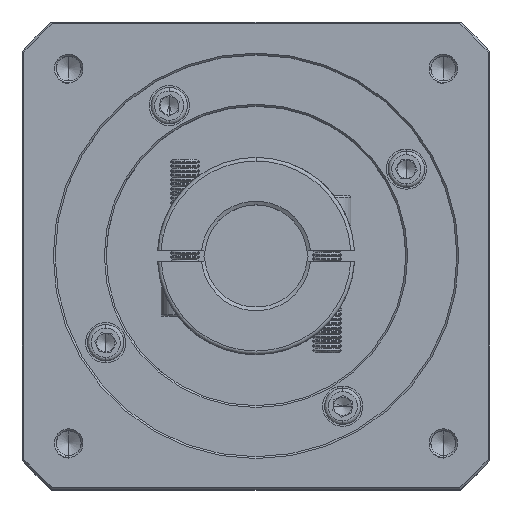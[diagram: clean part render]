
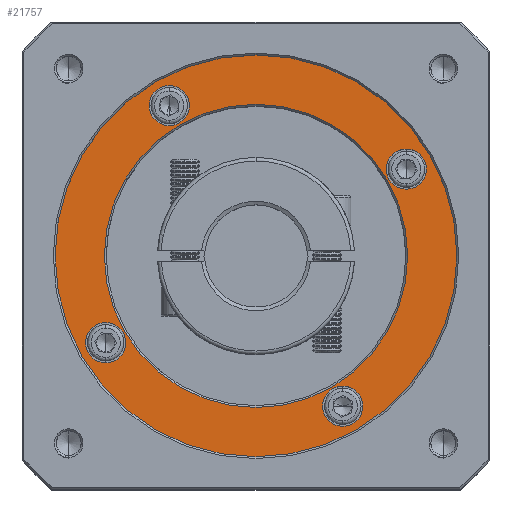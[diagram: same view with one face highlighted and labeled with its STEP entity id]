
A CAD part, top view. The second image highlights one B-rep face of the part: STEP entity #21757.
In plain terms, the highlighted planar face has unit normal (0, 0, 1).
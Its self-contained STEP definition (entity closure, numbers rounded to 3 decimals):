
#282 = VERTEX_POINT ( 'NONE', #111818 ) ;
#908 = DIRECTION ( 'NONE',  ( 0., 0., -1. ) ) ;
#1043 = AXIS2_PLACEMENT_3D ( 'NONE', #74714, #42538, #84969 ) ;
#1100 = VERTEX_POINT ( 'NONE', #102758 ) ;
#2003 = DIRECTION ( 'NONE',  ( 0., 0., 1. ) ) ;
#2314 = EDGE_LOOP ( 'NONE', ( #53384, #108763 ) ) ;
#3133 = CARTESIAN_POINT ( 'NONE',  ( 11.716, 57.868, 34.78 ) ) ;
#3472 = DIRECTION ( 'NONE',  ( 0., 0., 1. ) ) ;
#5245 = DIRECTION ( 'NONE',  ( 0., 1., 0. ) ) ;
#7034 = CARTESIAN_POINT ( 'NONE',  ( 29.102, 122.754, 34.78 ) ) ;
#7500 = FACE_BOUND ( 'NONE', #18315, .T. ) ;
#7676 = CARTESIAN_POINT ( 'NONE',  ( 93.989, 99.868, 34.78 ) ) ;
#7784 = ORIENTED_EDGE ( 'NONE', *, *, #77686, .T. ) ;
#7814 = AXIS2_PLACEMENT_3D ( 'NONE', #103446, #73968, #115448 ) ;
#8805 = EDGE_LOOP ( 'NONE', ( #76430, #115575 ) ) ;
#10395 = EDGE_CURVE ( 'NONE', #124551, #97203, #35784, .T. ) ;
#11506 = CARTESIAN_POINT ( 'NONE',  ( 11.716, 57.868, 34.78 ) ) ;
#12601 = EDGE_LOOP ( 'NONE', ( #51501, #71983 ) ) ;
#13302 = ORIENTED_EDGE ( 'NONE', *, *, #132427, .T. ) ;
#15938 = DIRECTION ( 'NONE',  ( 0., 0., -1. ) ) ;
#16460 = CARTESIAN_POINT ( 'NONE',  ( 93.989, 105.368, 34.78 ) ) ;
#17561 = ORIENTED_EDGE ( 'NONE', *, *, #52430, .T. ) ;
#18128 = EDGE_CURVE ( 'NONE', #124477, #40626, #96997, .T. ) ;
#18315 = EDGE_LOOP ( 'NONE', ( #7784, #57504 ) ) ;
#18650 = AXIS2_PLACEMENT_3D ( 'NONE', #91545, #98737, #101855 ) ;
#21757 = ADVANCED_FACE ( 'NONE', ( #71542, #95437, #58685, #7500, #84357, #45869 ), #114966, .T. ) ;
#21946 = CARTESIAN_POINT ( 'NONE',  ( 93.989, 110.868, 34.78 ) ) ;
#22742 = CARTESIAN_POINT ( 'NONE',  ( 93.989, 105.368, 34.78 ) ) ;
#26865 = CIRCLE ( 'NONE', #7814, 55. ) ;
#31495 = ORIENTED_EDGE ( 'NONE', *, *, #18128, .T. ) ;
#35724 = VERTEX_POINT ( 'NONE', #61002 ) ;
#35784 = CIRCLE ( 'NONE', #45027, 5.5 ) ;
#36643 = CIRCLE ( 'NONE', #43638, 5.5 ) ;
#36863 = CARTESIAN_POINT ( 'NONE',  ( 76.602, 34.981, 34.78 ) ) ;
#37669 = DIRECTION ( 'NONE',  ( 0., 1., 0. ) ) ;
#40171 = AXIS2_PLACEMENT_3D ( 'NONE', #85045, #2003, #74372 ) ;
#40626 = VERTEX_POINT ( 'NONE', #107030 ) ;
#40717 = VERTEX_POINT ( 'NONE', #36863 ) ;
#42538 = DIRECTION ( 'NONE',  ( 0., 0., -1. ) ) ;
#43638 = AXIS2_PLACEMENT_3D ( 'NONE', #7034, #15938, #5245 ) ;
#45027 = AXIS2_PLACEMENT_3D ( 'NONE', #11506, #908, #81332 ) ;
#45466 = DIRECTION ( 'NONE',  ( 0., 1., 0. ) ) ;
#45869 = FACE_BOUND ( 'NONE', #49650, .T. ) ;
#47810 = CIRCLE ( 'NONE', #55591, 5.5 ) ;
#48887 = CARTESIAN_POINT ( 'NONE',  ( 11.716, 63.368, 34.78 ) ) ;
#49650 = EDGE_LOOP ( 'NONE', ( #86253, #13302 ) ) ;
#51501 = ORIENTED_EDGE ( 'NONE', *, *, #73433, .T. ) ;
#51784 = EDGE_LOOP ( 'NONE', ( #31495, #17561 ) ) ;
#52430 = EDGE_CURVE ( 'NONE', #40626, #124477, #36643, .T. ) ;
#53071 = AXIS2_PLACEMENT_3D ( 'NONE', #22742, #124556, #105446 ) ;
#53384 = ORIENTED_EDGE ( 'NONE', *, *, #99927, .T. ) ;
#55153 = CARTESIAN_POINT ( 'NONE',  ( 76.602, 40.481, 34.78 ) ) ;
#55591 = AXIS2_PLACEMENT_3D ( 'NONE', #3133, #73766, #105036 ) ;
#57504 = ORIENTED_EDGE ( 'NONE', *, *, #130728, .T. ) ;
#58685 = FACE_BOUND ( 'NONE', #51784, .T. ) ;
#59309 = VERTEX_POINT ( 'NONE', #125618 ) ;
#61002 = CARTESIAN_POINT ( 'NONE',  ( 52.852, 26.618, 34.78 ) ) ;
#61420 = EDGE_CURVE ( 'NONE', #1100, #40717, #87091, .T. ) ;
#64208 = CARTESIAN_POINT ( 'NONE',  ( 11.716, 52.368, 34.78 ) ) ;
#65237 = VERTEX_POINT ( 'NONE', #125186 ) ;
#68110 = AXIS2_PLACEMENT_3D ( 'NONE', #16460, #98286, #88451 ) ;
#68989 = CIRCLE ( 'NONE', #80910, 55. ) ;
#70267 = CIRCLE ( 'NONE', #81196, 5.5 ) ;
#71542 = FACE_OUTER_BOUND ( 'NONE', #2314, .T. ) ;
#71983 = ORIENTED_EDGE ( 'NONE', *, *, #96474, .T. ) ;
#73433 = EDGE_CURVE ( 'NONE', #59309, #65237, #110214, .T. ) ;
#73766 = DIRECTION ( 'NONE',  ( 0., 0., -1. ) ) ;
#73968 = DIRECTION ( 'NONE',  ( 0., 0., 1. ) ) ;
#74102 = AXIS2_PLACEMENT_3D ( 'NONE', #90005, #88272, #108797 ) ;
#74139 = CARTESIAN_POINT ( 'NONE',  ( 52.852, 81.618, 34.78 ) ) ;
#74372 = DIRECTION ( 'NONE',  ( 0., 1., 0. ) ) ;
#74714 = CARTESIAN_POINT ( 'NONE',  ( 52.852, 81.618, 34.78 ) ) ;
#76430 = ORIENTED_EDGE ( 'NONE', *, *, #77634, .T. ) ;
#77634 = EDGE_CURVE ( 'NONE', #97203, #124551, #47810, .T. ) ;
#77686 = EDGE_CURVE ( 'NONE', #124959, #91841, #106925, .T. ) ;
#79625 = DIRECTION ( 'NONE',  ( 0., 0., -1. ) ) ;
#80910 = AXIS2_PLACEMENT_3D ( 'NONE', #74139, #3472, #45466 ) ;
#81196 = AXIS2_PLACEMENT_3D ( 'NONE', #55153, #126577, #127442 ) ;
#81332 = DIRECTION ( 'NONE',  ( 0., 1., 0. ) ) ;
#84357 = FACE_BOUND ( 'NONE', #8805, .T. ) ;
#84969 = DIRECTION ( 'NONE',  ( 0., 1., 0. ) ) ;
#85045 = CARTESIAN_POINT ( 'NONE',  ( 52.852, 81.618, 34.78 ) ) ;
#86253 = ORIENTED_EDGE ( 'NONE', *, *, #61420, .T. ) ;
#87091 = CIRCLE ( 'NONE', #116393, 5.5 ) ;
#88272 = DIRECTION ( 'NONE',  ( 0., 0., -1. ) ) ;
#88451 = DIRECTION ( 'NONE',  ( 0., 1., 0. ) ) ;
#90005 = CARTESIAN_POINT ( 'NONE',  ( 52.852, 81.618, 34.78 ) ) ;
#90297 = CARTESIAN_POINT ( 'NONE',  ( 76.602, 40.481, 34.78 ) ) ;
#91545 = CARTESIAN_POINT ( 'NONE',  ( 29.102, 122.754, 34.78 ) ) ;
#91841 = VERTEX_POINT ( 'NONE', #7676 ) ;
#94948 = CARTESIAN_POINT ( 'NONE',  ( 29.102, 128.254, 34.78 ) ) ;
#95437 = FACE_BOUND ( 'NONE', #12601, .T. ) ;
#96474 = EDGE_CURVE ( 'NONE', #65237, #59309, #127269, .T. ) ;
#96997 = CIRCLE ( 'NONE', #18650, 5.5 ) ;
#97203 = VERTEX_POINT ( 'NONE', #48887 ) ;
#98286 = DIRECTION ( 'NONE',  ( 0., 0., -1. ) ) ;
#98737 = DIRECTION ( 'NONE',  ( 0., 0., -1. ) ) ;
#99927 = EDGE_CURVE ( 'NONE', #282, #35724, #26865, .T. ) ;
#101855 = DIRECTION ( 'NONE',  ( 0., 1., 0. ) ) ;
#102039 = EDGE_CURVE ( 'NONE', #35724, #282, #68989, .T. ) ;
#102758 = CARTESIAN_POINT ( 'NONE',  ( 76.602, 45.981, 34.78 ) ) ;
#103446 = CARTESIAN_POINT ( 'NONE',  ( 52.852, 81.618, 34.78 ) ) ;
#105036 = DIRECTION ( 'NONE',  ( 0., 1., 0. ) ) ;
#105446 = DIRECTION ( 'NONE',  ( 0., 1., 0. ) ) ;
#106925 = CIRCLE ( 'NONE', #53071, 5.5 ) ;
#107030 = CARTESIAN_POINT ( 'NONE',  ( 29.102, 117.254, 34.78 ) ) ;
#108763 = ORIENTED_EDGE ( 'NONE', *, *, #102039, .T. ) ;
#108797 = DIRECTION ( 'NONE',  ( 0., 1., 0. ) ) ;
#110214 = CIRCLE ( 'NONE', #1043, 41.5 ) ;
#111818 = CARTESIAN_POINT ( 'NONE',  ( 52.852, 136.618, 34.78 ) ) ;
#114966 = PLANE ( 'NONE',  #40171 ) ;
#115448 = DIRECTION ( 'NONE',  ( 0., 1., 0. ) ) ;
#115575 = ORIENTED_EDGE ( 'NONE', *, *, #10395, .T. ) ;
#116393 = AXIS2_PLACEMENT_3D ( 'NONE', #90297, #79625, #37669 ) ;
#117370 = CIRCLE ( 'NONE', #68110, 5.5 ) ;
#124477 = VERTEX_POINT ( 'NONE', #94948 ) ;
#124551 = VERTEX_POINT ( 'NONE', #64208 ) ;
#124556 = DIRECTION ( 'NONE',  ( 0., 0., -1. ) ) ;
#124959 = VERTEX_POINT ( 'NONE', #21946 ) ;
#125186 = CARTESIAN_POINT ( 'NONE',  ( 52.852, 40.118, 34.78 ) ) ;
#125618 = CARTESIAN_POINT ( 'NONE',  ( 52.852, 123.118, 34.78 ) ) ;
#126577 = DIRECTION ( 'NONE',  ( 0., 0., -1. ) ) ;
#127269 = CIRCLE ( 'NONE', #74102, 41.5 ) ;
#127442 = DIRECTION ( 'NONE',  ( 0., 1., 0. ) ) ;
#130728 = EDGE_CURVE ( 'NONE', #91841, #124959, #117370, .T. ) ;
#132427 = EDGE_CURVE ( 'NONE', #40717, #1100, #70267, .T. ) ;
